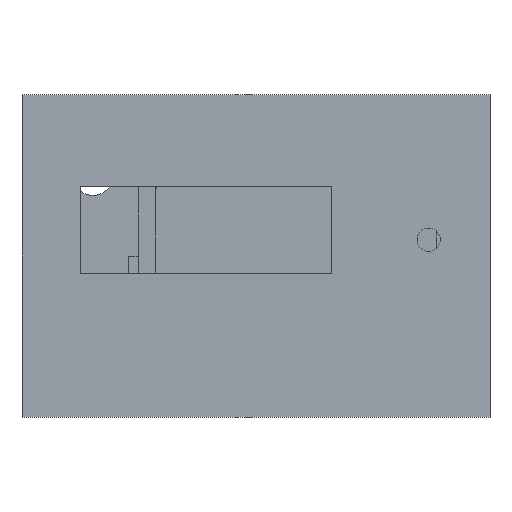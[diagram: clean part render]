
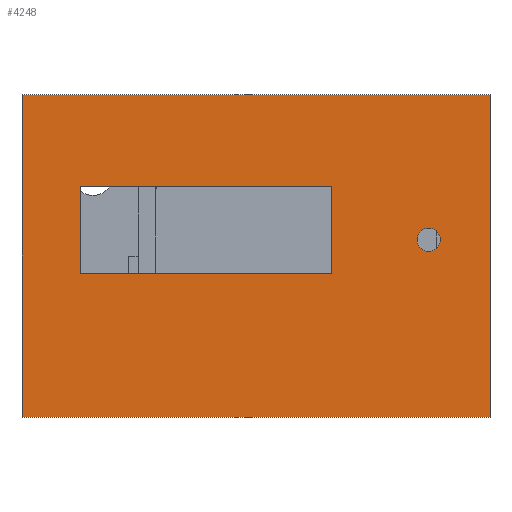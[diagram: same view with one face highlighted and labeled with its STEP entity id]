
A CAD part, front view. The second image highlights one B-rep face of the part: STEP entity #4248.
In plain terms, the highlighted planar face has unit normal (0, -1, 0).
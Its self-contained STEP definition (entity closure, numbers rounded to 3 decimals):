
#4132 = EDGE_CURVE('',#4133,#4135,#4137,.T.);
#4133 = VERTEX_POINT('',#4134);
#4134 = CARTESIAN_POINT('',(0.,-85.,0.));
#4135 = VERTEX_POINT('',#4136);
#4136 = CARTESIAN_POINT('',(0.,-85.,100.));
#4137 = SURFACE_CURVE('',#4138,(#4142,#4154),.PCURVE_S1.);
#4138 = LINE('',#4139,#4140);
#4139 = CARTESIAN_POINT('',(0.,-85.,0.));
#4140 = VECTOR('',#4141,1.);
#4141 = DIRECTION('',(0.,0.,1.));
#4142 = PCURVE('',#4143,#4148);
#4143 = PLANE('',#4144);
#4144 = AXIS2_PLACEMENT_3D('',#4145,#4146,#4147);
#4145 = CARTESIAN_POINT('',(0.,-85.,0.));
#4146 = DIRECTION('',(1.,0.,0.));
#4147 = DIRECTION('',(0.,0.,1.));
#4148 = DEFINITIONAL_REPRESENTATION('',(#4149),#4153);
#4149 = LINE('',#4150,#4151);
#4150 = CARTESIAN_POINT('',(0.,0.));
#4151 = VECTOR('',#4152,1.);
#4152 = DIRECTION('',(1.,0.));
#4153 = ( GEOMETRIC_REPRESENTATION_CONTEXT(2) 
PARAMETRIC_REPRESENTATION_CONTEXT() REPRESENTATION_CONTEXT('2D SPACE',''
  ) );
#4154 = PCURVE('',#4155,#4160);
#4155 = PLANE('',#4156);
#4156 = AXIS2_PLACEMENT_3D('',#4157,#4158,#4159);
#4157 = CARTESIAN_POINT('',(0.,-85.,0.));
#4158 = DIRECTION('',(0.,1.,0.));
#4159 = DIRECTION('',(0.,0.,1.));
#4160 = DEFINITIONAL_REPRESENTATION('',(#4161),#4165);
#4161 = LINE('',#4162,#4163);
#4162 = CARTESIAN_POINT('',(0.,0.));
#4163 = VECTOR('',#4164,1.);
#4164 = DIRECTION('',(1.,0.));
#4165 = ( GEOMETRIC_REPRESENTATION_CONTEXT(2) 
PARAMETRIC_REPRESENTATION_CONTEXT() REPRESENTATION_CONTEXT('2D SPACE',''
  ) );
#4183 = PLANE('',#4184);
#4184 = AXIS2_PLACEMENT_3D('',#4185,#4186,#4187);
#4185 = CARTESIAN_POINT('',(0.,-85.,0.));
#4186 = DIRECTION('',(0.,0.,1.));
#4187 = DIRECTION('',(1.,0.,0.));
#4237 = PLANE('',#4238);
#4238 = AXIS2_PLACEMENT_3D('',#4239,#4240,#4241);
#4239 = CARTESIAN_POINT('',(0.,-85.,100.));
#4240 = DIRECTION('',(0.,0.,1.));
#4241 = DIRECTION('',(1.,0.,0.));
#4248 = ADVANCED_FACE('',(#4249,#4324,#4438),#4155,.F.);
#4249 = FACE_BOUND('',#4250,.F.);
#4250 = EDGE_LOOP('',(#4251,#4274,#4275,#4298));
#4251 = ORIENTED_EDGE('',*,*,#4252,.F.);
#4252 = EDGE_CURVE('',#4133,#4253,#4255,.T.);
#4253 = VERTEX_POINT('',#4254);
#4254 = CARTESIAN_POINT('',(145.,-85.,0.));
#4255 = SURFACE_CURVE('',#4256,(#4260,#4267),.PCURVE_S1.);
#4256 = LINE('',#4257,#4258);
#4257 = CARTESIAN_POINT('',(0.,-85.,0.));
#4258 = VECTOR('',#4259,1.);
#4259 = DIRECTION('',(1.,0.,0.));
#4260 = PCURVE('',#4155,#4261);
#4261 = DEFINITIONAL_REPRESENTATION('',(#4262),#4266);
#4262 = LINE('',#4263,#4264);
#4263 = CARTESIAN_POINT('',(0.,0.));
#4264 = VECTOR('',#4265,1.);
#4265 = DIRECTION('',(0.,1.));
#4266 = ( GEOMETRIC_REPRESENTATION_CONTEXT(2) 
PARAMETRIC_REPRESENTATION_CONTEXT() REPRESENTATION_CONTEXT('2D SPACE',''
  ) );
#4267 = PCURVE('',#4183,#4268);
#4268 = DEFINITIONAL_REPRESENTATION('',(#4269),#4273);
#4269 = LINE('',#4270,#4271);
#4270 = CARTESIAN_POINT('',(0.,0.));
#4271 = VECTOR('',#4272,1.);
#4272 = DIRECTION('',(1.,0.));
#4273 = ( GEOMETRIC_REPRESENTATION_CONTEXT(2) 
PARAMETRIC_REPRESENTATION_CONTEXT() REPRESENTATION_CONTEXT('2D SPACE',''
  ) );
#4274 = ORIENTED_EDGE('',*,*,#4132,.T.);
#4275 = ORIENTED_EDGE('',*,*,#4276,.T.);
#4276 = EDGE_CURVE('',#4135,#4277,#4279,.T.);
#4277 = VERTEX_POINT('',#4278);
#4278 = CARTESIAN_POINT('',(145.,-85.,100.));
#4279 = SURFACE_CURVE('',#4280,(#4284,#4291),.PCURVE_S1.);
#4280 = LINE('',#4281,#4282);
#4281 = CARTESIAN_POINT('',(0.,-85.,100.));
#4282 = VECTOR('',#4283,1.);
#4283 = DIRECTION('',(1.,0.,0.));
#4284 = PCURVE('',#4155,#4285);
#4285 = DEFINITIONAL_REPRESENTATION('',(#4286),#4290);
#4286 = LINE('',#4287,#4288);
#4287 = CARTESIAN_POINT('',(100.,0.));
#4288 = VECTOR('',#4289,1.);
#4289 = DIRECTION('',(0.,1.));
#4290 = ( GEOMETRIC_REPRESENTATION_CONTEXT(2) 
PARAMETRIC_REPRESENTATION_CONTEXT() REPRESENTATION_CONTEXT('2D SPACE',''
  ) );
#4291 = PCURVE('',#4237,#4292);
#4292 = DEFINITIONAL_REPRESENTATION('',(#4293),#4297);
#4293 = LINE('',#4294,#4295);
#4294 = CARTESIAN_POINT('',(0.,0.));
#4295 = VECTOR('',#4296,1.);
#4296 = DIRECTION('',(1.,0.));
#4297 = ( GEOMETRIC_REPRESENTATION_CONTEXT(2) 
PARAMETRIC_REPRESENTATION_CONTEXT() REPRESENTATION_CONTEXT('2D SPACE',''
  ) );
#4298 = ORIENTED_EDGE('',*,*,#4299,.F.);
#4299 = EDGE_CURVE('',#4253,#4277,#4300,.T.);
#4300 = SURFACE_CURVE('',#4301,(#4305,#4312),.PCURVE_S1.);
#4301 = LINE('',#4302,#4303);
#4302 = CARTESIAN_POINT('',(145.,-85.,0.));
#4303 = VECTOR('',#4304,1.);
#4304 = DIRECTION('',(0.,0.,1.));
#4305 = PCURVE('',#4155,#4306);
#4306 = DEFINITIONAL_REPRESENTATION('',(#4307),#4311);
#4307 = LINE('',#4308,#4309);
#4308 = CARTESIAN_POINT('',(0.,145.));
#4309 = VECTOR('',#4310,1.);
#4310 = DIRECTION('',(1.,0.));
#4311 = ( GEOMETRIC_REPRESENTATION_CONTEXT(2) 
PARAMETRIC_REPRESENTATION_CONTEXT() REPRESENTATION_CONTEXT('2D SPACE',''
  ) );
#4312 = PCURVE('',#4313,#4318);
#4313 = PLANE('',#4314);
#4314 = AXIS2_PLACEMENT_3D('',#4315,#4316,#4317);
#4315 = CARTESIAN_POINT('',(145.,-85.,0.));
#4316 = DIRECTION('',(1.,0.,0.));
#4317 = DIRECTION('',(0.,0.,1.));
#4318 = DEFINITIONAL_REPRESENTATION('',(#4319),#4323);
#4319 = LINE('',#4320,#4321);
#4320 = CARTESIAN_POINT('',(0.,0.));
#4321 = VECTOR('',#4322,1.);
#4322 = DIRECTION('',(1.,0.));
#4323 = ( GEOMETRIC_REPRESENTATION_CONTEXT(2) 
PARAMETRIC_REPRESENTATION_CONTEXT() REPRESENTATION_CONTEXT('2D SPACE',''
  ) );
#4324 = FACE_BOUND('',#4325,.F.);
#4325 = EDGE_LOOP('',(#4326,#4356,#4384,#4412));
#4326 = ORIENTED_EDGE('',*,*,#4327,.F.);
#4327 = EDGE_CURVE('',#4328,#4330,#4332,.T.);
#4328 = VERTEX_POINT('',#4329);
#4329 = CARTESIAN_POINT('',(18.,-85.,71.5));
#4330 = VERTEX_POINT('',#4331);
#4331 = CARTESIAN_POINT('',(96.,-85.,71.5));
#4332 = SURFACE_CURVE('',#4333,(#4337,#4344),.PCURVE_S1.);
#4333 = LINE('',#4334,#4335);
#4334 = CARTESIAN_POINT('',(9.,-85.,71.5));
#4335 = VECTOR('',#4336,1.);
#4336 = DIRECTION('',(1.,0.,0.));
#4337 = PCURVE('',#4155,#4338);
#4338 = DEFINITIONAL_REPRESENTATION('',(#4339),#4343);
#4339 = LINE('',#4340,#4341);
#4340 = CARTESIAN_POINT('',(71.5,9.));
#4341 = VECTOR('',#4342,1.);
#4342 = DIRECTION('',(0.,1.));
#4343 = ( GEOMETRIC_REPRESENTATION_CONTEXT(2) 
PARAMETRIC_REPRESENTATION_CONTEXT() REPRESENTATION_CONTEXT('2D SPACE',''
  ) );
#4344 = PCURVE('',#4345,#4350);
#4345 = PLANE('',#4346);
#4346 = AXIS2_PLACEMENT_3D('',#4347,#4348,#4349);
#4347 = CARTESIAN_POINT('',(18.,-85.1,71.5));
#4348 = DIRECTION('',(0.,0.,1.));
#4349 = DIRECTION('',(1.,0.,0.));
#4350 = DEFINITIONAL_REPRESENTATION('',(#4351),#4355);
#4351 = LINE('',#4352,#4353);
#4352 = CARTESIAN_POINT('',(-9.,0.1));
#4353 = VECTOR('',#4354,1.);
#4354 = DIRECTION('',(1.,0.));
#4355 = ( GEOMETRIC_REPRESENTATION_CONTEXT(2) 
PARAMETRIC_REPRESENTATION_CONTEXT() REPRESENTATION_CONTEXT('2D SPACE',''
  ) );
#4356 = ORIENTED_EDGE('',*,*,#4357,.T.);
#4357 = EDGE_CURVE('',#4328,#4358,#4360,.T.);
#4358 = VERTEX_POINT('',#4359);
#4359 = CARTESIAN_POINT('',(18.,-85.,44.5));
#4360 = SURFACE_CURVE('',#4361,(#4365,#4372),.PCURVE_S1.);
#4361 = LINE('',#4362,#4363);
#4362 = CARTESIAN_POINT('',(18.,-85.,22.25));
#4363 = VECTOR('',#4364,1.);
#4364 = DIRECTION('',(0.,0.,-1.));
#4365 = PCURVE('',#4155,#4366);
#4366 = DEFINITIONAL_REPRESENTATION('',(#4367),#4371);
#4367 = LINE('',#4368,#4369);
#4368 = CARTESIAN_POINT('',(22.25,18.));
#4369 = VECTOR('',#4370,1.);
#4370 = DIRECTION('',(-1.,0.));
#4371 = ( GEOMETRIC_REPRESENTATION_CONTEXT(2) 
PARAMETRIC_REPRESENTATION_CONTEXT() REPRESENTATION_CONTEXT('2D SPACE',''
  ) );
#4372 = PCURVE('',#4373,#4378);
#4373 = PLANE('',#4374);
#4374 = AXIS2_PLACEMENT_3D('',#4375,#4376,#4377);
#4375 = CARTESIAN_POINT('',(18.,-85.1,44.5));
#4376 = DIRECTION('',(1.,0.,0.));
#4377 = DIRECTION('',(0.,0.,1.));
#4378 = DEFINITIONAL_REPRESENTATION('',(#4379),#4383);
#4379 = LINE('',#4380,#4381);
#4380 = CARTESIAN_POINT('',(-22.25,-0.1));
#4381 = VECTOR('',#4382,1.);
#4382 = DIRECTION('',(-1.,0.));
#4383 = ( GEOMETRIC_REPRESENTATION_CONTEXT(2) 
PARAMETRIC_REPRESENTATION_CONTEXT() REPRESENTATION_CONTEXT('2D SPACE',''
  ) );
#4384 = ORIENTED_EDGE('',*,*,#4385,.T.);
#4385 = EDGE_CURVE('',#4358,#4386,#4388,.T.);
#4386 = VERTEX_POINT('',#4387);
#4387 = CARTESIAN_POINT('',(96.,-85.,44.5));
#4388 = SURFACE_CURVE('',#4389,(#4393,#4400),.PCURVE_S1.);
#4389 = LINE('',#4390,#4391);
#4390 = CARTESIAN_POINT('',(9.,-85.,44.5));
#4391 = VECTOR('',#4392,1.);
#4392 = DIRECTION('',(1.,0.,0.));
#4393 = PCURVE('',#4155,#4394);
#4394 = DEFINITIONAL_REPRESENTATION('',(#4395),#4399);
#4395 = LINE('',#4396,#4397);
#4396 = CARTESIAN_POINT('',(44.5,9.));
#4397 = VECTOR('',#4398,1.);
#4398 = DIRECTION('',(0.,1.));
#4399 = ( GEOMETRIC_REPRESENTATION_CONTEXT(2) 
PARAMETRIC_REPRESENTATION_CONTEXT() REPRESENTATION_CONTEXT('2D SPACE',''
  ) );
#4400 = PCURVE('',#4401,#4406);
#4401 = PLANE('',#4402);
#4402 = AXIS2_PLACEMENT_3D('',#4403,#4404,#4405);
#4403 = CARTESIAN_POINT('',(18.,-85.1,44.5));
#4404 = DIRECTION('',(0.,0.,1.));
#4405 = DIRECTION('',(1.,0.,0.));
#4406 = DEFINITIONAL_REPRESENTATION('',(#4407),#4411);
#4407 = LINE('',#4408,#4409);
#4408 = CARTESIAN_POINT('',(-9.,0.1));
#4409 = VECTOR('',#4410,1.);
#4410 = DIRECTION('',(1.,0.));
#4411 = ( GEOMETRIC_REPRESENTATION_CONTEXT(2) 
PARAMETRIC_REPRESENTATION_CONTEXT() REPRESENTATION_CONTEXT('2D SPACE',''
  ) );
#4412 = ORIENTED_EDGE('',*,*,#4413,.F.);
#4413 = EDGE_CURVE('',#4330,#4386,#4414,.T.);
#4414 = SURFACE_CURVE('',#4415,(#4419,#4426),.PCURVE_S1.);
#4415 = LINE('',#4416,#4417);
#4416 = CARTESIAN_POINT('',(96.,-85.,22.25));
#4417 = VECTOR('',#4418,1.);
#4418 = DIRECTION('',(0.,0.,-1.));
#4419 = PCURVE('',#4155,#4420);
#4420 = DEFINITIONAL_REPRESENTATION('',(#4421),#4425);
#4421 = LINE('',#4422,#4423);
#4422 = CARTESIAN_POINT('',(22.25,96.));
#4423 = VECTOR('',#4424,1.);
#4424 = DIRECTION('',(-1.,0.));
#4425 = ( GEOMETRIC_REPRESENTATION_CONTEXT(2) 
PARAMETRIC_REPRESENTATION_CONTEXT() REPRESENTATION_CONTEXT('2D SPACE',''
  ) );
#4426 = PCURVE('',#4427,#4432);
#4427 = PLANE('',#4428);
#4428 = AXIS2_PLACEMENT_3D('',#4429,#4430,#4431);
#4429 = CARTESIAN_POINT('',(96.,-85.1,44.5));
#4430 = DIRECTION('',(1.,0.,0.));
#4431 = DIRECTION('',(0.,0.,1.));
#4432 = DEFINITIONAL_REPRESENTATION('',(#4433),#4437);
#4433 = LINE('',#4434,#4435);
#4434 = CARTESIAN_POINT('',(-22.25,-0.1));
#4435 = VECTOR('',#4436,1.);
#4436 = DIRECTION('',(-1.,0.));
#4437 = ( GEOMETRIC_REPRESENTATION_CONTEXT(2) 
PARAMETRIC_REPRESENTATION_CONTEXT() REPRESENTATION_CONTEXT('2D SPACE',''
  ) );
#4438 = FACE_BOUND('',#4439,.F.);
#4439 = EDGE_LOOP('',(#4440));
#4440 = ORIENTED_EDGE('',*,*,#4441,.F.);
#4441 = EDGE_CURVE('',#4442,#4442,#4444,.T.);
#4442 = VERTEX_POINT('',#4443);
#4443 = CARTESIAN_POINT('',(126.,-85.,58.6));
#4444 = SURFACE_CURVE('',#4445,(#4450,#4457),.PCURVE_S1.);
#4445 = CIRCLE('',#4446,3.6);
#4446 = AXIS2_PLACEMENT_3D('',#4447,#4448,#4449);
#4447 = CARTESIAN_POINT('',(126.,-85.,55.));
#4448 = DIRECTION('',(0.,1.,0.));
#4449 = DIRECTION('',(0.,-0.,1.));
#4450 = PCURVE('',#4155,#4451);
#4451 = DEFINITIONAL_REPRESENTATION('',(#4452),#4456);
#4452 = CIRCLE('',#4453,3.6);
#4453 = AXIS2_PLACEMENT_2D('',#4454,#4455);
#4454 = CARTESIAN_POINT('',(55.,126.));
#4455 = DIRECTION('',(1.,0.));
#4456 = ( GEOMETRIC_REPRESENTATION_CONTEXT(2) 
PARAMETRIC_REPRESENTATION_CONTEXT() REPRESENTATION_CONTEXT('2D SPACE',''
  ) );
#4457 = PCURVE('',#4458,#4463);
#4458 = CYLINDRICAL_SURFACE('',#4459,3.6);
#4459 = AXIS2_PLACEMENT_3D('',#4460,#4461,#4462);
#4460 = CARTESIAN_POINT('',(126.,-85.1,55.));
#4461 = DIRECTION('',(0.,1.,0.));
#4462 = DIRECTION('',(0.,-0.,1.));
#4463 = DEFINITIONAL_REPRESENTATION('',(#4464),#4468);
#4464 = LINE('',#4465,#4466);
#4465 = CARTESIAN_POINT('',(0.,0.1));
#4466 = VECTOR('',#4467,1.);
#4467 = DIRECTION('',(1.,0.));
#4468 = ( GEOMETRIC_REPRESENTATION_CONTEXT(2) 
PARAMETRIC_REPRESENTATION_CONTEXT() REPRESENTATION_CONTEXT('2D SPACE',''
  ) );
